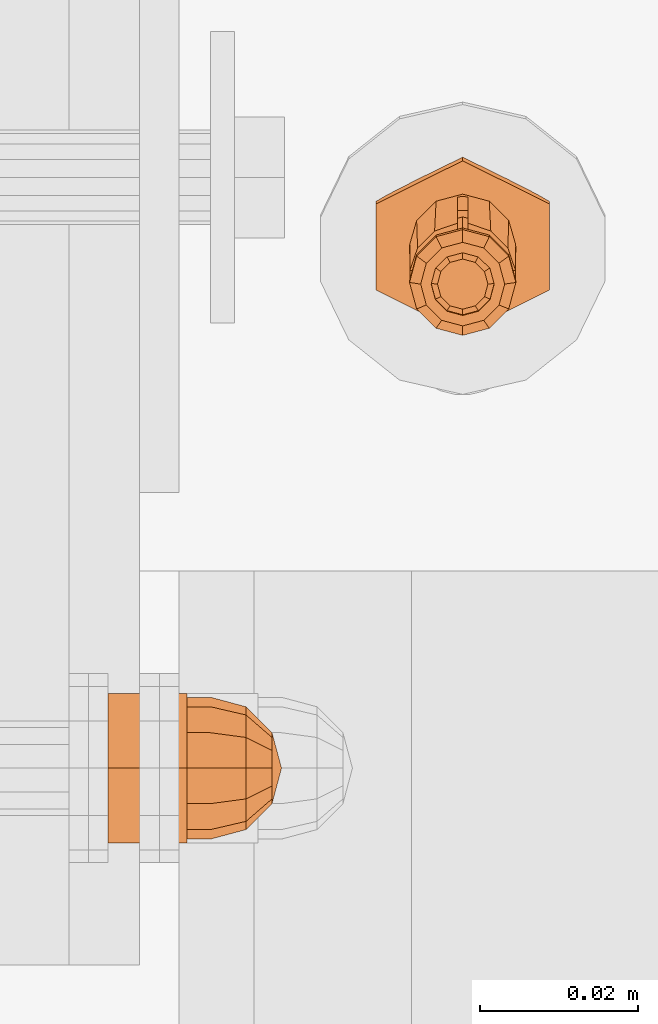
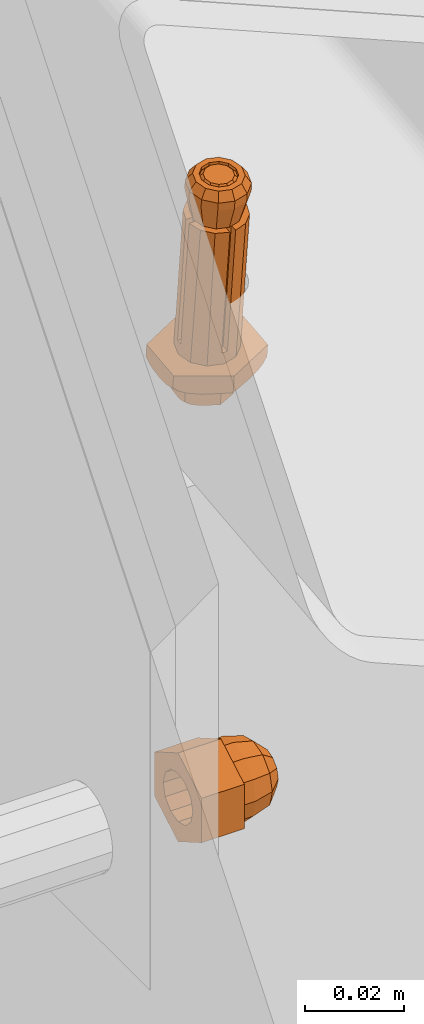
# One storey, part 105 of 162: 2 proxies.
"""IFC2X3 building model written with IfcOpenShell, lengths in millimetres."""

from ifc_helpers import new_model, entity, si_unit, converted_unit, origin_with_axes, place, context, project, spatial, faceted_brep, material, element, save


model = new_model("IFC2X3")

# Units and contexts
model_context = context("Model", 3, precision=1e-09, world=origin_with_axes())
ifc_project = project(units=[si_unit("LENGTHUNIT", "METRE", prefix="MILLI"), si_unit("AREAUNIT", "SQUARE_METRE"), si_unit("VOLUMEUNIT", "CUBIC_METRE"), converted_unit("PLANEANGLEUNIT", "DEGREE", entity("IfcPlaneAngleMeasure", 0.01745329), si_unit("PLANEANGLEUNIT", "RADIAN"), dimensions=[0, 0, 0, 0, 0, 0, 0])], contexts=[model_context])

# Site, building, storey
site_placement = place(None, origin_with_axes())
site = spatial("IfcSite", under=ifc_project, at=site_placement, Name="Hermannstra?e 1a, 60318 Frankfurt", CompositionType="ELEMENT")
building_placement = place(site_placement, origin_with_axes())
building = spatial("IfcBuilding", under=site, at=building_placement, Name="Struktur 1", CompositionType="ELEMENT")
storey_placement = place(building_placement, origin_with_axes())
storey = spatial("IfcBuildingStorey", under=building, at=storey_placement, Name="Default Storey", CompositionType="ELEMENT", Elevation=0.0)

# Proxies
ifc_material_1 = material(Name="S235JR")
proxy_1_placement = place(None, origin_with_axes())
element("IfcBuildingElementProxy", 1, at=proxy_1_placement, inside=storey, material=ifc_material_1, ObjectType="-", context=model_context, shape_type="Brep", body=[
    faceted_brep([(2589.309364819, 1738.879241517, 17335.326965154), (2589.309364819, 1738.167246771, 17334.447724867), (2591.309364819, 1738.700209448, 17334.503741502), (2590.909364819, 1739.305611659, 17335.371778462), (2592.773466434, 1740.156290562, 17334.656781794), (2592.080646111, 1740.470476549, 17335.494210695), (2587.709364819, 1744.817811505, 17335.951134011), (2586.538083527, 1743.652946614, 17335.828701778), (2586.109364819, 1742.061711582, 17335.661456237), (2586.538083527, 1740.470476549, 17335.494210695), (2587.709364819, 1739.305611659, 17335.371778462), (2592.509364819, 1742.061711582, 17335.661456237), (2592.080646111, 1743.652946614, 17335.828701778), (2590.909364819, 1744.817811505, 17335.951134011), (2589.309364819, 1745.244181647, 17335.995947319), (2587.309364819, 1738.700209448, 17334.503741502), (2593.309364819, 1742.145334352, 17334.86583872), (2589.309364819, 1742.641064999, 17291.882187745), (2591.309364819, 1743.174027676, 17291.93820438), (2587.309364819, 1743.174027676, 17291.93820438), (2585.845263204, 1740.156290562, 17334.656781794), (2592.773466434, 1744.630108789, 17292.091244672), (2591.309364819, 1745.590459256, 17335.227935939), (2589.309364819, 1746.123421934, 17335.283952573), (2592.773466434, 1744.134378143, 17335.074895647), (2585.309364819, 1742.145334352, 17334.86583872), (2585.845263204, 1744.134378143, 17335.074895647), (2587.309364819, 1745.590459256, 17335.227935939), (2585.845263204, 1744.630108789, 17292.091244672), (2593.309364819, 1746.61915258, 17292.300301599), (2591.809364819, 1742.31274645, 17291.847680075), (2593.639491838, 1744.132847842, 17292.03898044), (2594.309364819, 1746.61915258, 17292.300301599), (2593.639491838, 1749.105457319, 17292.561622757), (2591.809364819, 1750.92555871, 17292.752923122), (2589.309364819, 1751.591762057, 17292.822943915), (2586.809364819, 1750.92555871, 17292.752923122), (2584.9792378, 1749.105457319, 17292.561622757), (2584.309364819, 1746.61915258, 17292.300301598), (2584.9792378, 1744.132847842, 17292.03898044), (2586.809364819, 1742.31274645, 17291.847680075), (2589.309364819, 1741.646543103, 17291.777659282), (2585.309364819, 1746.61915258, 17292.300301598), (2585.845263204, 1748.608196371, 17292.509358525), (2587.309364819, 1750.064277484, 17292.662398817), (2589.309364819, 1750.597240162, 17292.718415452), (2591.309364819, 1750.064277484, 17292.662398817), (2592.773466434, 1748.608196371, 17292.509358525), (2589.984364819, 1741.524818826, 17293.373678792), (2588.634364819, 1741.524818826, 17293.373678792), (2585.096454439, 1740.428908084, 17325.434758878), (2586.616525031, 1738.917164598, 17325.275868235), (2589.984364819, 1738.179908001, 17325.198379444), (2592.002204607, 1738.917164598, 17325.275868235), (2593.5222752, 1740.428908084, 17325.434758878), (2589.534977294, 1741.484362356, 17293.369426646), (2589.083752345, 1741.484362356, 17293.369426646), (2588.634364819, 1738.179908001, 17325.198379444), (2584.355136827, 1742.435693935, 17325.64568057), (2584.355136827, 1745.78060476, 17293.820979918), (2592.877629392, 1737.408638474, 17325.11731575), (2595.039110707, 1739.558278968, 17325.343252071), (2596.02553002, 1742.435693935, 17325.64568057), (2594.263592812, 1742.435693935, 17325.64568057), (2589.984364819, 1736.42762287, 17325.014206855), (2594.263592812, 1745.78060476, 17293.820979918), (2589.984364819, 1739.772533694, 17293.189506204), (2588.634364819, 1739.772533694, 17293.189506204), (2589.084029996, 1739.742625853, 17293.186362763), (2589.534699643, 1739.742625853, 17293.186362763), (2594.263592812, 1747.123209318, 17293.962093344), (2584.355136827, 1747.123209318, 17293.962093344), (2588.634364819, 1736.42762287, 17325.014206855), (2583.579618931, 1739.558278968, 17325.343252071), (2585.741100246, 1737.408638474, 17325.11731575), (2582.593199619, 1742.435693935, 17325.64568057), (2584.314457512, 1746.227530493, 17293.867953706), (2584.314457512, 1746.676283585, 17293.915119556), (2594.304272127, 1746.227530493, 17293.867953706), (2589.984364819, 1751.378995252, 17294.40939447), (2594.304272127, 1746.676283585, 17293.915119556), (2593.5222752, 1745.785084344, 17325.997715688), (2592.002204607, 1747.296827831, 17326.156606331), (2594.263592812, 1743.778298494, 17325.786793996), (2584.355136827, 1743.778298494, 17325.786793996), (2586.616525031, 1747.296827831, 17326.156606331), (2585.096454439, 1745.785084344, 17325.997715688), (2588.634364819, 1748.034084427, 17326.234095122), (2588.634364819, 1751.378995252, 17294.40939447), (2589.309364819, 1740.061972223, 17290.111992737), (2582.593199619, 1745.78060476, 17293.820979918), (2582.593199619, 1747.123209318, 17293.962093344), (2582.563127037, 1746.676007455, 17293.915090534), (2582.563127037, 1746.227806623, 17293.867982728), (2592.684364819, 1740.961346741, 17290.206520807), (2596.055602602, 1746.676007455, 17293.915090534), (2596.02553002, 1747.123209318, 17293.962093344), (2596.02553002, 1745.78060476, 17293.820979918), (2596.055602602, 1746.227806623, 17293.867982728), (2589.534977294, 1751.419451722, 17294.413646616), (2589.984364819, 1748.034084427, 17326.234095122), (2596.02553002, 1743.778298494, 17325.786793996), (2582.593199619, 1743.778298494, 17325.786793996), (2585.741100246, 1748.805353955, 17326.315158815), (2583.579618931, 1746.655713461, 17326.089222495), (2588.634364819, 1749.786369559, 17326.41826771), (2589.083752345, 1751.419451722, 17294.413646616), (2585.934364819, 1740.961346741, 17290.206520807), (2583.463693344, 1743.41848362, 17290.4647763), (2595.155036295, 1743.41848362, 17290.4647763), (2589.084029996, 1753.161188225, 17294.596710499), (2588.634364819, 1753.131280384, 17294.593567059), (2589.984364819, 1753.131280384, 17294.593567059), (2589.534699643, 1753.161188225, 17294.596710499), (2589.984364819, 1749.786369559, 17326.41826771), (2596.059364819, 1746.774995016, 17290.817559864), (2595.039110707, 1746.655713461, 17326.089222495), (2592.877629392, 1748.805353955, 17326.315158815), (2582.559364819, 1746.774995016, 17290.817559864), (2589.309364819, 1735.835254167, 17289.667746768), (2600.309364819, 1741.305124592, 17290.242653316), (2600.309364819, 1752.244865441, 17291.392466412), (2589.309364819, 1757.714735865, 17291.96737296), (2578.309364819, 1752.244865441, 17291.392466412), (2578.309364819, 1741.305124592, 17290.242653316), (2583.463693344, 1750.131506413, 17291.170343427), (2585.934364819, 1752.588643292, 17291.42859892), (2589.309364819, 1753.48801781, 17291.523126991), (2592.684364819, 1752.588643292, 17291.42859892), (2595.155036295, 1750.131506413, 17291.170343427), (2599.169635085, 1741.160940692, 17286.162704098), (2600.309364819, 1742.930454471, 17286.571121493), (2600.309364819, 1741.628258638, 17287.168238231), (2599.326638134, 1741.44690803, 17286.181728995), (2597.861342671, 1740.561706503, 17285.6059688), (2589.309364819, 1736.302180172, 17285.225242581), (2594.982133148, 1739.163661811, 17285.13510466), (2600.309364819, 1751.418407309, 17287.463241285), (2600.309364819, 1752.567999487, 17288.318051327), (2600.309364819, 1744.340203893, 17286.322545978), (2600.309364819, 1747.241921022, 17286.375055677), (2600.309364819, 1750.091146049, 17286.926994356), (2598.435680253, 1742.024784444, 17285.604699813), (2580.757386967, 1740.561706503, 17285.6059688), (2583.636596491, 1739.163661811, 17285.13510466), (2578.309364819, 1741.628258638, 17287.168238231), (2579.449094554, 1741.160940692, 17286.162704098), (2589.309364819, 1736.784568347, 17285.053930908), (2578.309364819, 1742.930454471, 17286.571121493), (2578.309364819, 1751.418407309, 17287.463241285), (2578.309364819, 1750.091146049, 17286.926994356), (2578.309364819, 1747.241921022, 17286.375055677), (2578.309364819, 1744.340203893, 17286.322545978), (2578.309364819, 1752.567999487, 17288.318051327), (2599.847526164, 1747.265000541, 17286.155468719), (2599.169635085, 1753.234167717, 17287.431651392), (2599.326638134, 1752.950493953, 17287.390804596), (2597.406702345, 1742.638744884, 17285.446690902), (2589.309364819, 1737.989355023, 17284.958020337), (2579.292091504, 1741.44690803, 17286.181728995), (2597.861342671, 1753.936058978, 17287.011669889), (2594.982133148, 1755.401451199, 17286.841765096), (2589.309364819, 1758.181661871, 17287.524868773), (2598.435680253, 1752.505216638, 17286.706237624), (2593.984364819, 1739.235155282, 17285.08895922), (2598.659364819, 1747.288134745, 17285.935361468), (2580.183049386, 1742.024784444, 17285.604699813), (2579.292091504, 1752.950493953, 17287.390804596), (2579.449094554, 1753.234167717, 17287.431651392), (2583.636596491, 1755.401451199, 17286.841765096), (2580.757386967, 1753.936058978, 17287.011669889), (2597.406702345, 1751.937524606, 17286.424032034), (2584.634364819, 1739.235155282, 17285.08895922), (2581.212027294, 1742.638744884, 17285.446690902), (2579.959364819, 1747.288134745, 17285.935361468), (2581.212027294, 1751.937524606, 17286.424032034), (2584.634364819, 1755.341114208, 17286.781763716), (2589.309364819, 1756.586914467, 17286.9127026), (2593.984364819, 1755.341114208, 17286.781763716), (2595.809364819, 1744.055938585, 17285.595643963), (2595.809364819, 1750.520330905, 17286.275078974), (2589.309364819, 1753.752527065, 17286.614796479), (2582.809364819, 1750.520330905, 17286.275078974), (2582.809364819, 1744.055938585, 17285.595643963), (2589.309364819, 1740.823742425, 17285.255926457), (2595.135888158, 1744.336502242, 17279.704760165), (2595.809364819, 1745.38212402, 17279.946097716), (2595.809364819, 1744.612644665, 17280.298939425), (2589.309364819, 1741.465416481, 17279.150805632), (2592.661455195, 1743.156291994, 17279.097542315), (2594.362806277, 1743.982409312, 17279.375780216), (2578.771203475, 1747.265000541, 17286.155468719), (2580.183049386, 1752.505216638, 17286.706237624), (2595.809364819, 1749.613441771, 17280.156386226), (2595.809364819, 1750.397732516, 17280.473259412), (2595.809364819, 1751.077036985, 17280.978374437), (2595.809364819, 1746.21515777, 17279.799212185), (2595.809364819, 1747.929808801, 17279.830240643), (2595.228662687, 1744.505482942, 17279.716002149), (2589.309364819, 1741.750464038, 17279.049576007), (2589.309364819, 1757.745432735, 17287.25700653), (2594.702187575, 1744.846955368, 17279.37503036), (2589.309364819, 1742.462383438, 17278.992901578), (2585.957274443, 1743.156291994, 17279.097542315), (2582.809364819, 1744.612644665, 17280.298939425), (2583.482841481, 1744.336502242, 17279.704760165), (2584.255923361, 1743.982409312, 17279.375780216), (2592.071864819, 1743.198538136, 17279.070274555), (2582.809364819, 1745.38212402, 17279.946097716), (2582.809364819, 1751.077036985, 17280.978374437), (2582.809364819, 1750.397732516, 17280.473259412), (2582.809364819, 1749.613441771, 17280.156386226), (2582.809364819, 1747.929808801, 17279.830240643), (2582.809364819, 1746.21515777, 17279.799212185), (2595.135888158, 1751.470681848, 17280.454592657), (2595.536460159, 1747.943446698, 17279.700484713), (2594.094155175, 1745.209750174, 17279.281661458), (2584.524574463, 1750.704483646, 17279.859181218), (2586.546864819, 1752.715695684, 17280.070568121), (2589.309364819, 1753.451850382, 17280.147941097), (2592.071864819, 1752.715695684, 17280.070568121), (2594.094155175, 1750.704483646, 17279.859181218), (2594.834364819, 1747.95711691, 17279.570421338), (2586.546864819, 1743.198538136, 17279.070274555), (2584.524574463, 1745.209750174, 17279.281661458), (2583.784364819, 1747.95711691, 17279.570421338), (2583.390066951, 1744.505482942, 17279.716002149), (2595.228662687, 1751.303056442, 17280.430455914), (2594.362806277, 1751.885435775, 17280.206421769), (2592.661455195, 1752.75134936, 17280.106023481), (2589.309364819, 1754.394201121, 17280.509675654), (2583.916542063, 1744.846955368, 17279.37503036), (2583.482841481, 1751.470681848, 17280.454592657), (2594.702187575, 1751.039938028, 17280.025939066), (2583.082269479, 1747.943446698, 17279.700484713), (2583.390066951, 1751.303056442, 17280.430455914), (2585.957274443, 1752.75134936, 17280.106023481), (2584.255923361, 1751.885435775, 17280.206421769), (2583.916542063, 1751.039938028, 17280.025939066), (2589.309364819, 1754.136429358, 17280.35139342)], [[[0, 1, 2, 3]], [[3, 2, 4, 5]], [[6, 7, 8, 9, 10, 0, 3, 5, 11, 12, 13, 14]], [[1, 0, 10, 15]], [[5, 4, 16, 11]], [[1, 17, 18, 2]], [[15, 19, 17, 1]], [[15, 10, 9, 20]], [[2, 18, 21, 4]], [[13, 22, 23, 14]], [[12, 24, 22, 13]], [[11, 16, 24, 12]], [[8, 25, 20, 9]], [[7, 26, 25, 8]], [[6, 27, 26, 7]], [[14, 23, 27, 6]], [[19, 15, 20, 28]], [[4, 21, 29, 16]], [[30, 31, 32, 33, 34, 35, 36, 37, 38, 39, 40, 41], [29, 21, 18, 17, 19, 28, 42, 43, 44, 45, 46, 47]], [[28, 20, 25, 42]], [[22, 46, 45, 23]], [[24, 47, 46, 22]], [[16, 29, 47, 24]], [[26, 43, 42, 25]], [[27, 44, 43, 26]], [[23, 45, 44, 27]], [[30, 41, 48]], [[41, 40, 49]], [[40, 39, 50, 51]], [[30, 52, 53]], [[31, 30, 53, 54]], [[30, 48, 52]], [[41, 55, 48]], [[41, 56, 55]], [[41, 49, 56]], [[40, 57, 49]], [[40, 51, 57]], [[39, 58, 50]], [[39, 38, 59]], [[60, 61, 62, 63, 54, 53, 52, 64]], [[32, 31, 65]], [[31, 54, 63]], [[52, 48, 66, 64]], [[55, 56, 49, 67, 68, 69, 66, 48]], [[33, 32, 70]], [[38, 37, 71]], [[49, 57, 72, 67]], [[73, 74, 72, 57, 51, 50, 58, 75]], [[39, 59, 58]], [[38, 76, 59]], [[38, 77, 76]], [[32, 65, 78]], [[31, 63, 65]], [[35, 34, 79]], [[32, 80, 70]], [[32, 78, 80]], [[34, 33, 81, 82]], [[33, 70, 83]], [[38, 71, 77]], [[37, 84, 71]], [[37, 36, 85, 86]], [[36, 87, 85]], [[36, 35, 88]], [[69, 68, 89]], [[58, 59, 90, 75]], [[76, 77, 71, 91, 92, 93, 90, 59]], [[60, 64, 94]], [[95, 96, 70, 80, 78, 65, 97, 98]], [[65, 63, 62, 97]], [[66, 94, 64]], [[66, 69, 89]], [[35, 79, 99]], [[34, 100, 79]], [[34, 82, 100]], [[83, 70, 96, 101]], [[33, 83, 81]], [[71, 84, 102, 91]], [[37, 86, 84]], [[103, 104, 102, 84, 86, 85, 87, 105]], [[36, 88, 87]], [[35, 106, 88]], [[35, 99, 106]], [[67, 89, 68]], [[67, 72, 107]], [[72, 74, 107]], [[73, 108, 107, 74]], [[73, 75, 108]], [[60, 94, 109, 61]], [[62, 61, 109]], [[66, 89, 94]], [[110, 111, 88, 106, 99, 79, 112, 113]], [[79, 100, 114, 112]], [[95, 98, 115]], [[116, 117, 114, 100, 82, 81, 83, 101]], [[93, 92, 118]], [[87, 88, 111, 105]], [[67, 107, 89]], [[90, 108, 75]], [[90, 93, 118]], [[97, 115, 98]], [[97, 62, 109]], [[119, 120, 121, 122, 123, 124], [109, 94, 89, 107, 108, 118, 125, 126, 127, 128, 129, 115]], [[96, 129, 101]], [[96, 95, 115]], [[116, 101, 129]], [[91, 118, 92]], [[91, 102, 125]], [[103, 105, 126]], [[110, 113, 127]], [[90, 118, 108]], [[97, 109, 115]], [[112, 127, 113]], [[112, 114, 128]], [[96, 115, 129]], [[114, 117, 128]], [[116, 129, 128, 117]], [[130, 131, 132]], [[130, 133, 131]], [[134, 133, 130]], [[135, 136, 134, 130, 132, 120, 119]], [[91, 125, 118]], [[102, 104, 125]], [[103, 126, 125, 104]], [[111, 126, 105]], [[111, 110, 127]], [[112, 128, 127]], [[137, 138, 121, 120, 132, 131, 139, 140, 141]], [[133, 139, 131]], [[134, 142, 133]], [[111, 127, 126]], [[143, 144, 135, 119, 124, 145, 146]], [[133, 142, 139]], [[136, 142, 134]], [[147, 136, 135]], [[146, 145, 148]], [[149, 150, 151, 152, 148, 145, 124, 123, 153]], [[140, 139, 154]], [[155, 138, 137]], [[141, 156, 137]], [[155, 137, 156]], [[142, 154, 139]], [[136, 157, 142]], [[147, 158, 136]], [[144, 147, 135]], [[143, 146, 159]], [[146, 148, 159]], [[160, 161, 162, 122, 121, 138, 155]], [[141, 140, 154]], [[141, 163, 156]], [[160, 155, 156]], [[157, 136, 164]], [[142, 157, 165, 154]], [[158, 164, 136]], [[144, 158, 147]], [[143, 159, 166]], [[152, 159, 148]], [[167, 150, 149]], [[168, 167, 149]], [[168, 149, 153]], [[162, 169, 170, 168, 153, 123, 122]], [[141, 154, 163]], [[160, 156, 163]], [[171, 165, 157, 164, 158, 172, 173, 174, 175, 176, 177, 178], [179, 180, 181, 182, 183, 184]], [[185, 186, 187]], [[179, 184, 188, 189, 190, 185, 187]], [[158, 144, 172]], [[166, 144, 143]], [[152, 166, 159]], [[152, 151, 191]], [[151, 150, 191]], [[167, 192, 150]], [[170, 167, 168]], [[154, 165, 171, 163]], [[163, 161, 160]], [[193, 194, 195, 180, 179, 187, 186, 196, 197]], [[185, 198, 186]], [[190, 198, 185]], [[199, 189, 188]], [[173, 172, 144]], [[166, 173, 144]], [[152, 191, 166]], [[192, 191, 150]], [[170, 192, 167]], [[161, 200, 162]], [[163, 171, 161]], [[198, 196, 186]], [[190, 201, 198]], [[199, 202, 189]], [[203, 199, 188]], [[183, 204, 205, 206, 203, 188, 184]], [[173, 166, 191, 174]], [[192, 175, 174, 191]], [[169, 192, 170]], [[200, 169, 162]], [[161, 177, 200]], [[171, 178, 161]], [[198, 201, 196]], [[189, 201, 190]], [[202, 207, 189]], [[205, 204, 208]], [[203, 202, 199]], [[183, 182, 209, 210, 211, 212, 213, 208, 204]], [[169, 175, 192]], [[177, 161, 178]], [[200, 177, 169]], [[214, 195, 194]], [[197, 196, 215]], [[201, 215, 196]], [[189, 216, 201]], [[216, 189, 207]], [[217, 218, 219, 220, 221, 222, 216, 207, 202, 223, 224, 225]], [[206, 205, 226]], [[205, 208, 226]], [[202, 203, 223]], [[175, 169, 176]], [[177, 176, 169]], [[193, 227, 194]], [[214, 194, 227]], [[228, 229, 230, 181, 180, 195, 214]], [[193, 197, 215]], [[201, 216, 222, 215]], [[206, 226, 231]], [[213, 226, 208]], [[224, 223, 203]], [[231, 203, 206]], [[232, 210, 209]], [[193, 233, 227]], [[228, 214, 227]], [[193, 215, 233]], [[213, 231, 226]], [[231, 224, 203]], [[213, 212, 234]], [[235, 211, 210]], [[232, 235, 210]], [[182, 181, 230, 236, 237, 232, 209]], [[228, 227, 233]], [[215, 222, 221, 233]], [[213, 234, 231]], [[224, 231, 234, 225]], [[212, 211, 234]], [[235, 238, 211]], [[237, 235, 232]], [[229, 239, 230]], [[233, 229, 228]], [[239, 236, 230]], [[238, 234, 211]], [[237, 238, 235]], [[229, 219, 239]], [[233, 221, 229]], [[225, 234, 238, 217]], [[239, 219, 236]], [[236, 238, 237]], [[219, 229, 220]], [[221, 220, 229]], [[219, 218, 236]], [[236, 217, 238]], [[217, 236, 218]]]),
    faceted_brep([(2583.463693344, 1738.914257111, 17333.319628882), (2584.690562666, 1739.409653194, 17335.382713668), (2583.976031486, 1742.061711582, 17335.661456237), (2582.559364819, 1742.270768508, 17333.672412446), (2583.976031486, 1743.106996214, 17325.716237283), (2582.559364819, 1742.479825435, 17331.683368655), (2583.463693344, 1745.836336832, 17332.036152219), (2584.690562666, 1745.759054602, 17325.994979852), (2585.934364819, 1736.457120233, 17333.06137339), (2586.642698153, 1737.46821171, 17335.178659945), (2589.309364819, 1736.757594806, 17335.103971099), (2591.976031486, 1737.46821171, 17335.178659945), (2593.928166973, 1739.409653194, 17335.382713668), (2594.642698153, 1742.061711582, 17335.661456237), (2593.928166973, 1744.713769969, 17335.940198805), (2591.976031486, 1746.655211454, 17336.144252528), (2589.309364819, 1747.365828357, 17336.218941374), (2586.642698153, 1746.655211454, 17336.144252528), (2584.690562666, 1744.713769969, 17335.940198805), (2589.309364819, 1738.083624, 17335.243342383), (2587.309364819, 1738.616586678, 17335.299359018), (2585.845263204, 1740.072667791, 17335.45239931), (2585.309364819, 1742.061711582, 17335.661456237), (2585.845263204, 1744.050755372, 17335.870513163), (2587.309364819, 1745.506836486, 17336.023553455), (2589.309364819, 1746.039799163, 17336.07957009), (2591.309364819, 1745.506836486, 17336.023553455), (2592.773466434, 1744.050755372, 17335.870513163), (2593.309364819, 1742.061711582, 17335.661456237), (2592.773466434, 1740.072667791, 17335.45239931), (2591.309364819, 1738.616586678, 17335.299359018), (2586.642698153, 1738.513496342, 17325.233440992), (2584.690562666, 1740.454937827, 17325.437494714), (2586.642698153, 1747.700496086, 17326.199033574), (2589.309364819, 1748.41111299, 17326.27372242), (2591.976031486, 1747.700496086, 17326.199033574), (2593.928166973, 1745.759054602, 17325.994979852), (2594.642698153, 1743.106996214, 17325.716237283), (2593.928166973, 1740.454937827, 17325.437494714), (2591.976031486, 1738.513496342, 17325.233440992), (2589.309364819, 1737.802879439, 17325.158752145), (2585.309364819, 1743.106996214, 17325.716237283), (2585.845263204, 1741.117952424, 17325.507180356), (2587.309364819, 1739.66187131, 17325.354140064), (2589.309364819, 1739.128908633, 17325.29812343), (2591.309364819, 1739.66187131, 17325.354140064), (2592.773466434, 1741.117952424, 17325.507180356), (2593.309364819, 1743.106996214, 17325.716237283), (2592.773466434, 1745.096040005, 17325.925294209), (2591.309364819, 1746.552121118, 17326.078334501), (2589.309364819, 1747.085083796, 17326.134351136), (2587.309364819, 1746.552121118, 17326.078334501), (2585.845263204, 1745.096040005, 17325.925294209), (2583.463693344, 1739.123314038, 17331.330585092), (2583.463693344, 1745.627279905, 17334.025196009), (2585.934364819, 1748.29347371, 17332.294407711), (2589.309364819, 1735.557745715, 17332.966845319), (2585.934364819, 1736.666177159, 17331.072329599), (2585.934364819, 1748.084416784, 17334.283451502), (2589.309364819, 1749.192848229, 17332.388935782), (2592.684364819, 1736.457120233, 17333.06137339), (2589.309364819, 1735.766802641, 17330.977801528), (2589.309364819, 1748.983791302, 17334.377979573), (2592.684364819, 1748.29347371, 17332.294407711), (2595.155036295, 1738.914257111, 17333.319628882), (2592.684364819, 1736.666177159, 17331.072329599), (2592.684364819, 1748.084416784, 17334.283451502), (2595.155036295, 1745.836336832, 17332.036152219), (2596.059364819, 1742.270768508, 17333.672412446), (2595.155036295, 1739.123314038, 17331.330585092), (2595.155036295, 1745.627279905, 17334.025196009), (2596.059364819, 1742.479825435, 17331.683368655)], [[[0, 1, 2, 3]], [[4, 5, 6, 7]], [[1, 0, 8, 9]], [[9, 10, 11, 12, 13, 14, 15, 16, 17, 18, 2, 1], [19, 20, 21, 22, 23, 24, 25, 26, 27, 28, 29, 30]], [[31, 32, 4, 7, 33, 34, 35, 36, 37, 38, 39, 40], [41, 42, 43, 44, 45, 46, 47, 48, 49, 50, 51, 52]], [[5, 4, 32, 53]], [[41, 22, 21, 42]], [[3, 5, 53, 0]], [[22, 41, 52, 23]], [[3, 2, 18, 54]], [[5, 3, 54, 6]], [[7, 6, 55, 33]], [[9, 8, 56, 10]], [[0, 53, 57, 8]], [[42, 21, 20, 43]], [[53, 32, 31, 57]], [[23, 52, 51, 24]], [[54, 18, 17, 58]], [[6, 54, 58, 55]], [[33, 55, 59, 34]], [[10, 56, 60, 11]], [[8, 57, 61, 56]], [[19, 44, 43, 20]], [[57, 31, 40, 61]], [[50, 25, 24, 51]], [[44, 19, 30, 45]], [[58, 17, 16, 62]], [[55, 58, 62, 59]], [[29, 46, 45, 30]], [[34, 59, 63, 35]], [[49, 26, 25, 50]], [[48, 27, 26, 49]], [[28, 47, 46, 29]], [[11, 60, 64, 12]], [[56, 61, 65, 60]], [[61, 40, 39, 65]], [[47, 28, 27, 48]], [[62, 16, 15, 66]], [[59, 62, 66, 63]], [[35, 63, 67, 36]], [[12, 64, 68, 13]], [[60, 65, 69, 64]], [[65, 39, 38, 69]], [[66, 15, 14, 70]], [[63, 66, 70, 67]], [[37, 71, 69, 38]], [[36, 67, 71, 37]], [[13, 68, 70, 14]], [[64, 69, 71, 68]], [[67, 70, 68, 71]]]),
])
ifc_material_2 = material(Name="A4")
proxy_2_placement = place(None, origin_with_axes())
element("IfcBuildingElementProxy", 2, at=proxy_2_placement, inside=storey, material=ifc_material_2, ObjectType="-", context=model_context, shape_type="Brep", body=[
    faceted_brep([(2554.30936482, 1686.610081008, 17235.045442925), (2544.30936482, 1686.610081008, 17235.045442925), (2544.30936482, 1685.806233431, 17232.045442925), (2554.30936482, 1685.806233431, 17232.045442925), (2544.30936482, 1683.610081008, 17229.849290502), (2554.30936482, 1683.610081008, 17229.849290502), (2554.30936482, 1685.806233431, 17238.045442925), (2544.30936482, 1685.806233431, 17238.045442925), (2544.30936482, 1690.089950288, 17240.518648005), (2544.30936482, 1690.089950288, 17229.572237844), (2544.30936482, 1680.610081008, 17224.099032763), (2544.30936482, 1671.130211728, 17229.572237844), (2544.30936482, 1671.130211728, 17240.518648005), (2544.30936482, 1680.610081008, 17245.991853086), (2544.30936482, 1683.610081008, 17240.241595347), (2544.30936482, 1680.610081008, 17241.045442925), (2544.30936482, 1677.610081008, 17240.241595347), (2544.30936482, 1675.413928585, 17238.045442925), (2544.30936482, 1674.610081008, 17235.045442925), (2544.30936482, 1675.413928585, 17232.045442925), (2544.30936482, 1677.610081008, 17229.849290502), (2544.30936482, 1680.610081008, 17229.045442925), (2554.30936482, 1690.089950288, 17240.518648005), (2554.30936482, 1680.610081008, 17245.991853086), (2554.30936482, 1671.130211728, 17240.518648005), (2554.30936482, 1671.130211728, 17229.572237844), (2554.30936482, 1680.610081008, 17224.099032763), (2554.30936482, 1690.089950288, 17229.572237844), (2554.30936482, 1683.610081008, 17240.241595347), (2554.30936482, 1680.610081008, 17229.045442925), (2554.30936482, 1680.610081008, 17241.045442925), (2554.30936482, 1677.610081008, 17229.849290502), (2554.30936482, 1677.610081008, 17240.241595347), (2554.30936482, 1675.413928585, 17232.045442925), (2554.30936482, 1675.413928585, 17238.045442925), (2554.30936482, 1674.610081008, 17235.045442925)], [[[0, 1, 2, 3]], [[3, 2, 4, 5]], [[1, 0, 6, 7]], [[8, 9, 10, 11, 12, 13], [7, 14, 15, 16, 17, 18, 19, 20, 21, 4, 2, 1]], [[22, 23, 24, 25, 26, 27]], [[7, 6, 28, 14]], [[22, 27, 9, 8]], [[5, 4, 21, 29]], [[10, 9, 27, 26]], [[14, 28, 30, 15]], [[23, 22, 8, 13]], [[29, 21, 20, 31]], [[11, 10, 26, 25]], [[15, 30, 32, 16]], [[24, 23, 13, 12]], [[31, 20, 19, 33]], [[25, 24, 12, 11]], [[16, 32, 34, 17]], [[33, 19, 18, 35]], [[17, 34, 35, 18]]]),
    faceted_brep([(2557.30936482, 1680.610081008, 17244.045442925), (2554.30936482, 1680.610081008, 17244.045442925), (2554.30936482, 1676.110081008, 17242.839671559), (2557.30936482, 1676.110081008, 17242.839671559), (2557.30936482, 1685.110081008, 17242.839671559), (2554.30936482, 1685.110081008, 17242.839671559), (2557.30936482, 1685.110081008, 17227.251214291), (2557.30936482, 1688.404309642, 17230.545442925), (2557.30936482, 1689.610081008, 17235.045442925), (2557.30936482, 1688.404309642, 17239.545442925), (2557.30936482, 1672.815852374, 17239.545442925), (2557.30936482, 1671.610081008, 17235.045442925), (2557.30936482, 1672.815852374, 17230.545442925), (2557.30936482, 1676.110081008, 17227.251214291), (2557.30936482, 1680.610081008, 17226.045442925), (2554.30936482, 1676.110081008, 17227.251214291), (2554.30936482, 1672.815852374, 17230.545442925), (2554.30936482, 1671.610081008, 17235.045442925), (2554.30936482, 1672.815852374, 17239.545442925), (2554.30936482, 1688.404309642, 17239.545442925), (2554.30936482, 1689.610081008, 17235.045442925), (2554.30936482, 1688.404309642, 17230.545442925), (2554.30936482, 1685.110081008, 17227.251214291), (2554.30936482, 1680.610081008, 17226.045442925)], [[[0, 1, 2, 3]], [[1, 0, 4, 5]], [[6, 7, 8, 9, 4, 0, 3, 10, 11, 12, 13, 14]], [[15, 16, 17, 18, 2, 1, 5, 19, 20, 21, 22, 23]], [[3, 2, 18, 10]], [[5, 4, 9, 19]], [[10, 18, 17, 11]], [[19, 9, 8, 20]], [[22, 6, 14, 23]], [[7, 21, 20, 8]], [[6, 22, 21, 7]], [[11, 17, 16, 12]], [[23, 14, 13, 15]], [[12, 16, 15, 13]]]),
    faceted_brep([(2561.80936482, 1687.360081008, 17238.942557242), (2557.30936482, 1688.404309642, 17239.545442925), (2557.30936482, 1685.110081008, 17242.839671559), (2561.80936482, 1684.507195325, 17241.795442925), (2557.30936482, 1676.110081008, 17227.251214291), (2557.30936482, 1672.815852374, 17230.545442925), (2557.30936482, 1671.610081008, 17235.045442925), (2557.30936482, 1672.815852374, 17239.545442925), (2557.30936482, 1676.110081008, 17242.839671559), (2557.30936482, 1680.610081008, 17244.045442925), (2557.30936482, 1689.610081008, 17235.045442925), (2557.30936482, 1688.404309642, 17230.545442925), (2557.30936482, 1685.110081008, 17227.251214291), (2557.30936482, 1680.610081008, 17226.045442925), (2561.80936482, 1680.610081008, 17242.839671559), (2565.103593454, 1685.110081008, 17235.045442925), (2561.80936482, 1688.404309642, 17235.045442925), (2565.103593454, 1684.507195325, 17237.295442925), (2561.80936482, 1676.712966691, 17241.795442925), (2565.103593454, 1682.860081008, 17238.942557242), (2565.103593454, 1684.507195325, 17232.795442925), (2561.80936482, 1687.360081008, 17231.148328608), (2565.103593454, 1680.610081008, 17239.545442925), (2566.30936482, 1680.610081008, 17235.045442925), (2565.103593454, 1682.860081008, 17231.148328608), (2561.80936482, 1684.507195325, 17228.295442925), (2561.80936482, 1680.610081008, 17227.251214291), (2561.80936482, 1673.860081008, 17238.942557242), (2565.103593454, 1678.360081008, 17238.942557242), (2565.103593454, 1680.610081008, 17230.545442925), (2561.80936482, 1676.712966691, 17228.295442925), (2565.103593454, 1678.360081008, 17231.148328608), (2561.80936482, 1672.815852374, 17235.045442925), (2565.103593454, 1676.712966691, 17237.295442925), (2561.80936482, 1673.860081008, 17231.148328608), (2565.103593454, 1676.712966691, 17232.795442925), (2565.103593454, 1676.110081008, 17235.045442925)], [[[0, 1, 2, 3]], [[4, 5, 6, 7, 8, 9, 2, 1, 10, 11, 12, 13]], [[3, 2, 9, 14]], [[15, 16, 0, 17]], [[1, 0, 16, 10]], [[14, 9, 8, 18]], [[17, 0, 3, 19]], [[16, 15, 20, 21]], [[19, 3, 14, 22]], [[17, 23, 15]], [[24, 25, 21, 20]], [[15, 23, 20]], [[12, 25, 26, 13]], [[11, 21, 25, 12]], [[10, 16, 21, 11]], [[18, 8, 7, 27]], [[22, 14, 18, 28]], [[19, 23, 17]], [[29, 26, 25, 24]], [[20, 23, 24]], [[22, 23, 19]], [[13, 26, 30, 4]], [[26, 29, 31, 30]], [[24, 23, 29]], [[27, 7, 6, 32]], [[28, 18, 27, 33]], [[28, 23, 22]], [[29, 23, 31]], [[33, 23, 28]], [[4, 30, 34, 5]], [[30, 31, 35, 34]], [[31, 23, 35]], [[32, 6, 5, 34]], [[33, 27, 32, 36]], [[36, 23, 33]], [[35, 23, 36]], [[34, 35, 36, 32]]]),
])

save(model, "model.ifc")
